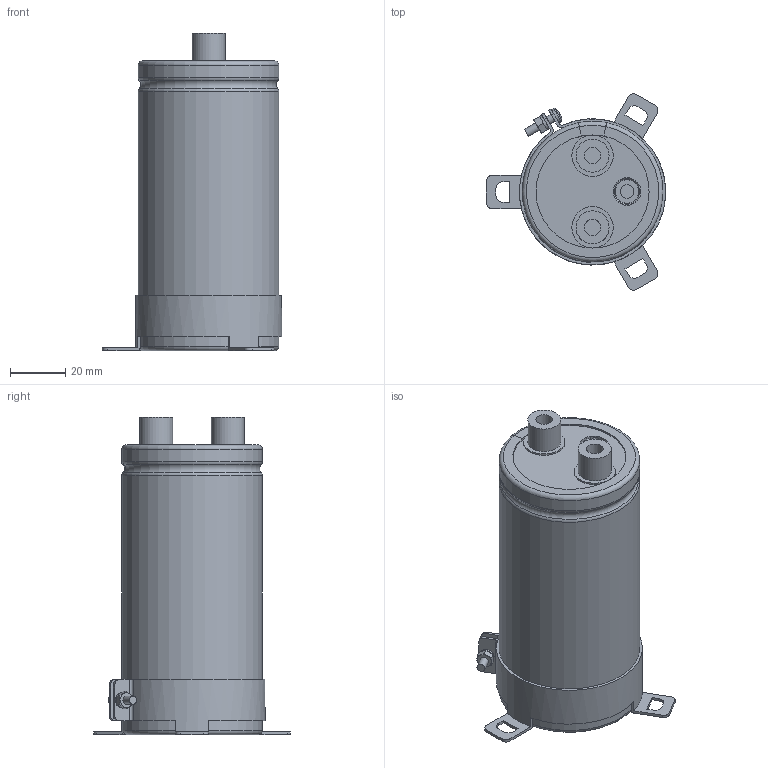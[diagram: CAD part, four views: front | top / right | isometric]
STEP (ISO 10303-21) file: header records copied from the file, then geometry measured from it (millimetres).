
FILE_DESCRIPTION(/* description */ (''),/* implementation_level */ '2;1');
FILE_NAME(/* name */ '51x105_EDLC_Screw.stp',/* time_stamp */ '2017-09-27T14:53:09+09:00',/* author */ (''),/* organization */ (''),/* preprocessor_version */ 'ST-DEVELOPER v16',/* originating_system */ 'SIEMENS PLM Software NX 11.0',/* authorisation */ '');
FILE_SCHEMA (('AUTOMOTIVE_DESIGN { 1 0 10303 214 3 1 1 1 }'));
Length unit declared in the file: millimetre
Products named in the file (1): 51x105_EDLC_Screw_1
Bounding box: 65 x 71.22 x 115 mm (x, y, z)
Volume: 217231 mm3; surface area: 65008.9 mm2
Topology: 9 solids, 9 shells, 257 faces, 639 edges, 411 vertices
Faces by surface type: plane 111, cylinder 65, torus 49, cone 31, sphere 1
Full cylindrical faces by diameter (mm): 3 x5, 5 x4, 5.5 x2, 6 x2, 10 x2, 12 x2, 15 x2, 49.8 x2
Entity records: 8377 total; most frequent: CARTESIAN_POINT 2059, DIRECTION 1288, ORIENTED_EDGE 1210, EDGE_CURVE 605, AXIS2_PLACEMENT_3D 537, VERTEX_POINT 406, EDGE_LOOP 313, CIRCLE 279
